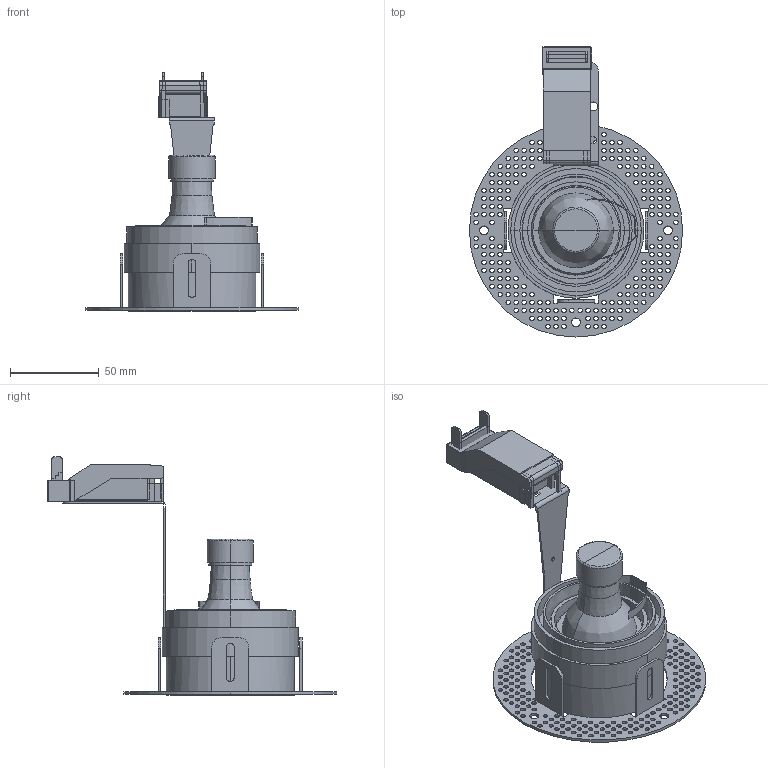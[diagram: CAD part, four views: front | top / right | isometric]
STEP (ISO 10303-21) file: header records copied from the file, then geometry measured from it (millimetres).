
FILE_DESCRIPTION(/* description */ (''),/* implementation_level */ '2;1');
FILE_NAME(/* name */ 'C:\Users\Franco Sartori E\Documents\FARO\DUPLICADO\Modelos\01_Digitalizados\2021\TRADING\0_FRESH\03_Publicación\02100701.stp',/* time_stamp */ '2020-12-29T12:38:05+01:00',/* author */ ('Franco Sartori E'),/* organization */ (''),/* preprocessor_version */ 'ST-DEVELOPER v18.1',/* originating_system */ 'AutoCAD Mechanical',/* authorisation */ '');
FILE_SCHEMA (('AUTOMOTIVE_DESIGN { 1 0 10303 214 3 1 1 }'));
Length unit declared in the file: millimetre
Products named in the file (2): Product; FamilyGeomCombination_386496-_3D_
Assembly tree (1 placements, depth 2):
  Product
    FamilyGeomCombination_386496-_3D_
Bounding box: 120 x 163.02 x 134.21 mm (x, y, z)
Volume: 144215.6 mm3; surface area: 105393.9 mm2
Topology: 13 solids, 21 shells, 796 faces, 2338 edges, 1540 vertices
Faces by surface type: cylinder 528, plane 240, cone 16, bspline 6, torus 6
Entity records: 28716 total; most frequent: CARTESIAN_POINT 5791, DIRECTION 4932, ORIENTED_EDGE 4484, EDGE_CURVE 2338, AXIS2_PLACEMENT_3D 1865, VERTEX_POINT 1540, EDGE_LOOP 1266, LINE 1202
